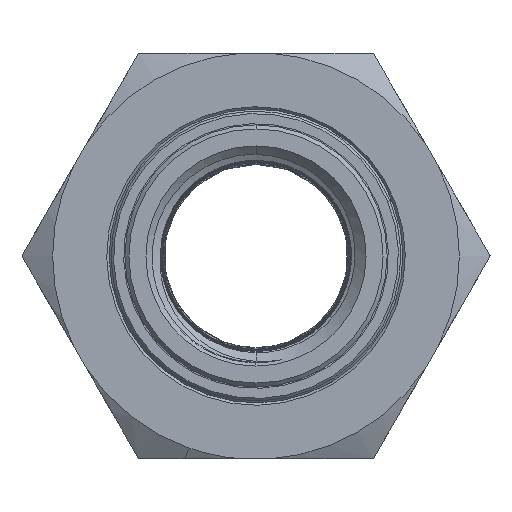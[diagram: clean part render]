
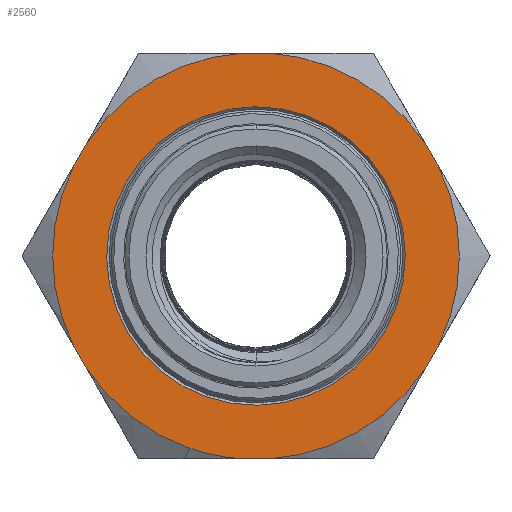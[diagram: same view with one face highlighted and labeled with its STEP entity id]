
A CAD part, left-side view. The second image highlights one B-rep face of the part: STEP entity #2560.
In plain terms, the highlighted planar face has unit normal (-1, 0, 0) as drawn and (1, 0, 0) by its records, which use the part's own axes.
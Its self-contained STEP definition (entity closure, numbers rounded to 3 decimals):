
#89 = CIRCLE ( 'NONE', #2924, 18.5 ) ;
#196 = ORIENTED_EDGE ( 'NONE', *, *, #1730, .F. ) ;
#212 = ORIENTED_EDGE ( 'NONE', *, *, #1531, .T. ) ;
#213 = ORIENTED_EDGE ( 'NONE', *, *, #1634, .F. ) ;
#214 = ORIENTED_EDGE ( 'NONE', *, *, #8694, .T. ) ;
#216 = ORIENTED_EDGE ( 'NONE', *, *, #1610, .F. ) ;
#217 = ORIENTED_EDGE ( 'NONE', *, *, #1674, .F. ) ;
#221 = ORIENTED_EDGE ( 'NONE', *, *, #1600, .F. ) ;
#225 = ORIENTED_EDGE ( 'NONE', *, *, #1745, .F. ) ;
#228 = ORIENTED_EDGE ( 'NONE', *, *, #1578, .F. ) ;
#232 = ORIENTED_EDGE ( 'NONE', *, *, #1636, .F. ) ;
#233 = ORIENTED_EDGE ( 'NONE', *, *, #1536, .F. ) ;
#234 = ORIENTED_EDGE ( 'NONE', *, *, #1672, .F. ) ;
#235 = ORIENTED_EDGE ( 'NONE', *, *, #1439, .F. ) ;
#243 = ORIENTED_EDGE ( 'NONE', *, *, #8610, .F. ) ;
#244 = ORIENTED_EDGE ( 'NONE', *, *, #1510, .F. ) ;
#715 = VERTEX_POINT ( 'NONE', #7508 ) ;
#716 = VERTEX_POINT ( 'NONE', #7509 ) ;
#727 = VERTEX_POINT ( 'NONE', #7602 ) ;
#736 = VERTEX_POINT ( 'NONE', #7620 ) ;
#780 = VERTEX_POINT ( 'NONE', #7574 ) ;
#781 = VERTEX_POINT ( 'NONE', #7638 ) ;
#788 = VERTEX_POINT ( 'NONE', #7651 ) ;
#791 = VERTEX_POINT ( 'NONE', #7681 ) ;
#792 = VERTEX_POINT ( 'NONE', #7640 ) ;
#798 = VERTEX_POINT ( 'NONE', #7673 ) ;
#831 = VERTEX_POINT ( 'NONE', #7664 ) ;
#851 = VERTEX_POINT ( 'NONE', #7706 ) ;
#860 = VERTEX_POINT ( 'NONE', #7745 ) ;
#865 = VERTEX_POINT ( 'NONE', #7746 ) ;
#870 = VERTEX_POINT ( 'NONE', #7744 ) ;
#1263 = CARTESIAN_POINT ( 'NONE',  ( 14.5, 18.2, 0. ) ) ;
#1267 = PLANE ( 'NONE',  #2883 ) ;
#1304 = DIRECTION ( 'NONE',  ( 0., 0., 1. ) ) ;
#1309 = DIRECTION ( 'NONE',  ( -1., 0., 0. ) ) ;
#1439 = EDGE_CURVE ( 'NONE', #791, #780, #5810, .T. ) ;
#1510 = EDGE_CURVE ( 'NONE', #860, #727, #5789, .T. ) ;
#1531 = EDGE_CURVE ( 'NONE', #716, #715, #5823, .T. ) ;
#1536 = EDGE_CURVE ( 'NONE', #788, #781, #5817, .T. ) ;
#1578 = EDGE_CURVE ( 'NONE', #831, #792, #5220, .T. ) ;
#1600 = EDGE_CURVE ( 'NONE', #851, #798, #5204, .T. ) ;
#1610 = EDGE_CURVE ( 'NONE', #798, #870, #5232, .T. ) ;
#1634 = EDGE_CURVE ( 'NONE', #781, #831, #5221, .T. ) ;
#1636 = EDGE_CURVE ( 'NONE', #736, #851, #5236, .T. ) ;
#1672 = EDGE_CURVE ( 'NONE', #780, #788, #5239, .T. ) ;
#1674 = EDGE_CURVE ( 'NONE', #865, #791, #5240, .T. ) ;
#1730 = EDGE_CURVE ( 'NONE', #870, #865, #5248, .T. ) ;
#1745 = EDGE_CURVE ( 'NONE', #792, #860, #5267, .T. ) ;
#2560 = ADVANCED_FACE ( 'NONE', ( #7114, #7096 ), #1267, .F. ) ;
#2659 = AXIS2_PLACEMENT_3D ( 'NONE', #11544, #11515, #11546 ) ;
#2669 = AXIS2_PLACEMENT_3D ( 'NONE', #5133, #5128, #5151 ) ;
#2688 = AXIS2_PLACEMENT_3D ( 'NONE', #12572, #12601, #12561 ) ;
#2690 = AXIS2_PLACEMENT_3D ( 'NONE', #11534, #11536, #11537 ) ;
#2694 = AXIS2_PLACEMENT_3D ( 'NONE', #12586, #12594, #12588 ) ;
#2695 = AXIS2_PLACEMENT_3D ( 'NONE', #12035, #12060, #12062 ) ;
#2700 = AXIS2_PLACEMENT_3D ( 'NONE', #4969, #4970, #4953 ) ;
#2869 = AXIS2_PLACEMENT_3D ( 'NONE', #5979, #5999, #6020 ) ;
#2883 = AXIS2_PLACEMENT_3D ( 'NONE', #1263, #1309, #1304 ) ;
#2924 = AXIS2_PLACEMENT_3D ( 'NONE', #10179, #10191, #10168 ) ;
#4803 = DIRECTION ( 'NONE',  ( 0., -0.944, -0.33 ) ) ;
#4807 = CARTESIAN_POINT ( 'NONE',  ( 14.5, 22.007, -18.949 ) ) ;
#4896 = CARTESIAN_POINT ( 'NONE',  ( 14.5, -22.007, 18.949 ) ) ;
#4915 = DIRECTION ( 'NONE',  ( 0., 0.944, 0.33 ) ) ;
#4947 = CARTESIAN_POINT ( 'NONE',  ( 14.5, -5.407, -28.533 ) ) ;
#4953 = DIRECTION ( 'NONE',  ( 0., 0., 1. ) ) ;
#4954 = DIRECTION ( 'NONE',  ( 0., -0.758, 0.653 ) ) ;
#4969 = CARTESIAN_POINT ( 'NONE',  ( 14.5, 0., 0. ) ) ;
#4970 = DIRECTION ( 'NONE',  ( -1., 0., 0. ) ) ;
#5072 = CARTESIAN_POINT ( 'NONE',  ( 14.5, 5.407, 28.533 ) ) ;
#5073 = DIRECTION ( 'NONE',  ( 0., 0.758, -0.653 ) ) ;
#5084 = DIRECTION ( 'NONE',  ( 0., 0.186, 0.983 ) ) ;
#5094 = CARTESIAN_POINT ( 'NONE',  ( 14.5, -27.414, -9.584 ) ) ;
#5128 = DIRECTION ( 'NONE',  ( -1., 0., 0. ) ) ;
#5133 = CARTESIAN_POINT ( 'NONE',  ( 14.5, 0., 0. ) ) ;
#5151 = DIRECTION ( 'NONE',  ( 0., 0., 1. ) ) ;
#5204 = LINE ( 'NONE', #5072, #5224 ) ;
#5220 = LINE ( 'NONE', #5094, #5231 ) ;
#5221 = CIRCLE ( 'NONE', #2688, 25.2 ) ;
#5224 = VECTOR ( 'NONE', #5073, 1000. ) ;
#5231 = VECTOR ( 'NONE', #5084, 1000. ) ;
#5232 = CIRCLE ( 'NONE', #2669, 25.2 ) ;
#5236 = CIRCLE ( 'NONE', #2694, 25.2 ) ;
#5239 = CIRCLE ( 'NONE', #2690, 25.2 ) ;
#5240 = CIRCLE ( 'NONE', #2659, 25.2 ) ;
#5248 = LINE ( 'NONE', #12007, #5250 ) ;
#5250 = VECTOR ( 'NONE', #12017, 1000. ) ;
#5267 = CIRCLE ( 'NONE', #2695, 25.2 ) ;
#5335 = EDGE_LOOP ( 'NONE', ( #214, #212 ) ) ;
#5336 = EDGE_LOOP ( 'NONE', ( #216, #221, #232, #243, #244, #225, #228, #213, #233, #234, #235, #217, #196 ) ) ;
#5789 = LINE ( 'NONE', #4896, #5801 ) ;
#5800 = VECTOR ( 'NONE', #4803, 1000. ) ;
#5801 = VECTOR ( 'NONE', #4915, 1000. ) ;
#5810 = LINE ( 'NONE', #4807, #5800 ) ;
#5817 = LINE ( 'NONE', #4947, #5826 ) ;
#5823 = CIRCLE ( 'NONE', #2700, 18.5 ) ;
#5826 = VECTOR ( 'NONE', #4954, 1000. ) ;
#5979 = CARTESIAN_POINT ( 'NONE',  ( 14.5, 0., 0. ) ) ;
#5999 = DIRECTION ( 'NONE',  ( -1., 0., 0. ) ) ;
#6020 = DIRECTION ( 'NONE',  ( 0., 0., 1. ) ) ;
#7096 = FACE_OUTER_BOUND ( 'NONE', #5336, .T. ) ;
#7114 = FACE_BOUND ( 'NONE', #5335, .T. ) ;
#7125 = CIRCLE ( 'NONE', #2869, 25.2 ) ;
#7508 = CARTESIAN_POINT ( 'NONE',  ( 14.5, 0., -18.5 ) ) ;
#7509 = CARTESIAN_POINT ( 'NONE',  ( 14.5, 0., 18.5 ) ) ;
#7574 = CARTESIAN_POINT ( 'NONE',  ( 14.5, 6.802, -24.265 ) ) ;
#7602 = CARTESIAN_POINT ( 'NONE',  ( 14.5, -6.802, 24.265 ) ) ;
#7620 = CARTESIAN_POINT ( 'NONE',  ( 14.5, 0., 25.2 ) ) ;
#7638 = CARTESIAN_POINT ( 'NONE',  ( 14.5, -17.613, -18.023 ) ) ;
#7640 = CARTESIAN_POINT ( 'NONE',  ( 14.5, -24.415, 6.242 ) ) ;
#7651 = CARTESIAN_POINT ( 'NONE',  ( 14.5, -15.208, -20.094 ) ) ;
#7664 = CARTESIAN_POINT ( 'NONE',  ( 14.5, -25.006, 3.124 ) ) ;
#7673 = CARTESIAN_POINT ( 'NONE',  ( 14.5, 17.613, 18.023 ) ) ;
#7681 = CARTESIAN_POINT ( 'NONE',  ( 14.5, 9.798, -23.217 ) ) ;
#7706 = CARTESIAN_POINT ( 'NONE',  ( 14.5, 15.208, 20.094 ) ) ;
#7744 = CARTESIAN_POINT ( 'NONE',  ( 14.5, 25.006, -3.124 ) ) ;
#7745 = CARTESIAN_POINT ( 'NONE',  ( 14.5, -9.798, 23.217 ) ) ;
#7746 = CARTESIAN_POINT ( 'NONE',  ( 14.5, 24.415, -6.242 ) ) ;
#8610 = EDGE_CURVE ( 'NONE', #727, #736, #7125, .T. ) ;
#8694 = EDGE_CURVE ( 'NONE', #715, #716, #89, .T. ) ;
#10168 = DIRECTION ( 'NONE',  ( 0., 0., 1. ) ) ;
#10179 = CARTESIAN_POINT ( 'NONE',  ( 14.5, 0., 0. ) ) ;
#10191 = DIRECTION ( 'NONE',  ( -1., 0., 0. ) ) ;
#11515 = DIRECTION ( 'NONE',  ( -1., 0., 0. ) ) ;
#11534 = CARTESIAN_POINT ( 'NONE',  ( 14.5, 0., 0. ) ) ;
#11536 = DIRECTION ( 'NONE',  ( -1., 0., 0. ) ) ;
#11537 = DIRECTION ( 'NONE',  ( 0., 0., 1. ) ) ;
#11544 = CARTESIAN_POINT ( 'NONE',  ( 14.5, 0., 0. ) ) ;
#11546 = DIRECTION ( 'NONE',  ( 0., 0., 1. ) ) ;
#12007 = CARTESIAN_POINT ( 'NONE',  ( 14.5, 27.414, 9.584 ) ) ;
#12017 = DIRECTION ( 'NONE',  ( 0., -0.186, -0.983 ) ) ;
#12035 = CARTESIAN_POINT ( 'NONE',  ( 14.5, 0., 0. ) ) ;
#12060 = DIRECTION ( 'NONE',  ( -1., 0., 0. ) ) ;
#12062 = DIRECTION ( 'NONE',  ( 0., 0., 1. ) ) ;
#12561 = DIRECTION ( 'NONE',  ( 0., 0., 1. ) ) ;
#12572 = CARTESIAN_POINT ( 'NONE',  ( 14.5, 0., 0. ) ) ;
#12586 = CARTESIAN_POINT ( 'NONE',  ( 14.5, 0., 0. ) ) ;
#12588 = DIRECTION ( 'NONE',  ( 0., 0., 1. ) ) ;
#12594 = DIRECTION ( 'NONE',  ( -1., 0., 0. ) ) ;
#12601 = DIRECTION ( 'NONE',  ( -1., 0., 0. ) ) ;
